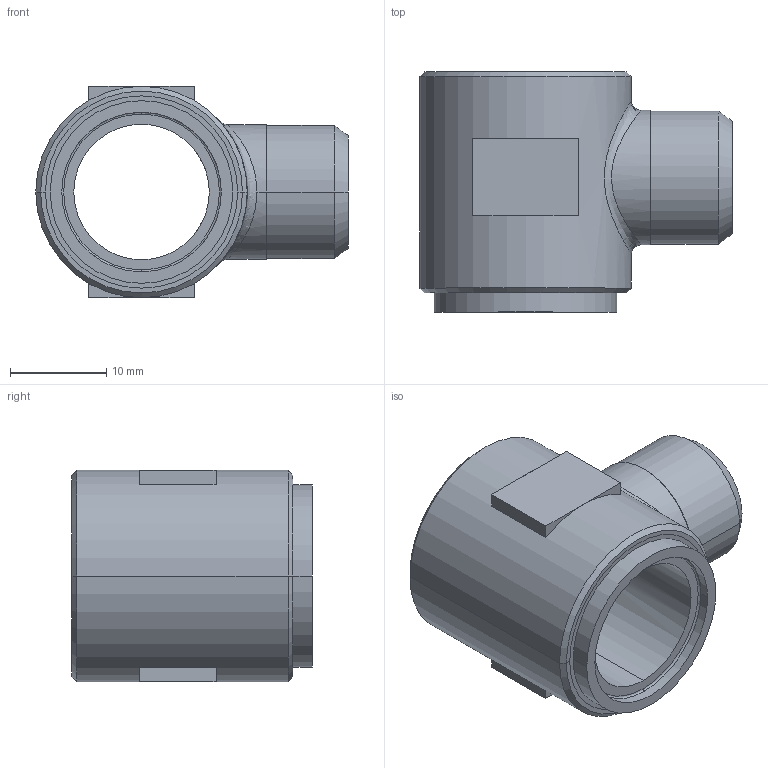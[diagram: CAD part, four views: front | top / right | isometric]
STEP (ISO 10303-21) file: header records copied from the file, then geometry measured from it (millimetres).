
FILE_DESCRIPTION((''),'2;1');
FILE_NAME('101305.stp','2007-10-30T15:42:35',(''),(''),'AutoCAD STEP 2000i','AutoCAD 2000i',', , ');
FILE_SCHEMA(('CONFIG_CONTROL_DESIGN'));
Length unit declared in the file: millimetre
Products named in the file (2): 101305.0; 1094#0
Assembly tree (1 placements, depth 2):
  101305.0
    1094#0
Bounding box: 32.5 x 25 x 22 mm (x, y, z)
Volume: 6415.6 mm3; surface area: 3997.7 mm2
Topology: 1 solids, 1 shells, 54 faces, 125 edges, 79 vertices
Faces by surface type: plane 21, cylinder 16, cone 12, bspline 5
Entity records: 2076 total; most frequent: CARTESIAN_POINT 708, DIRECTION 281, ORIENTED_EDGE 250, EDGE_CURVE 125, AXIS2_PLACEMENT_3D 114, VERTEX_POINT 79, EDGE_LOOP 64, CIRCLE 63
